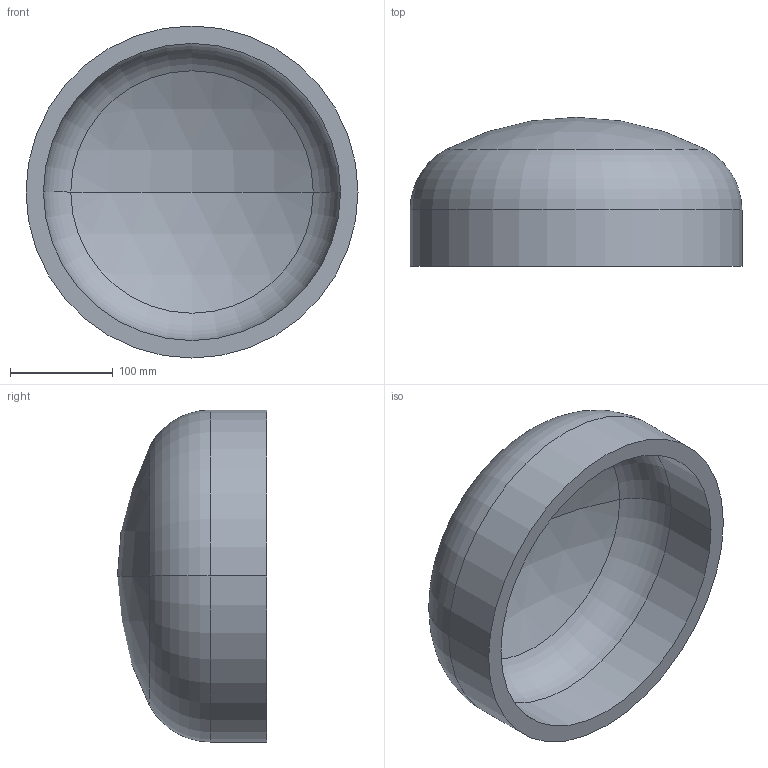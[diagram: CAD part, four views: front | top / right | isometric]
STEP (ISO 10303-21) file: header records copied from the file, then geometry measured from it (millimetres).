
FILE_DESCRIPTION (( 'STEP AP203' ), '1' );
FILE_NAME ('DIN 28013 Korbbogenform_-_Boden DIN 28013 - 323,9 x 55 - I - s=17.step', '2016-07-01T07:44:31', ( '' ), ( '' ), 'SwSTEP 2.0', 'SolidWorks 2013', '' );
FILE_SCHEMA (( 'CONFIG_CONTROL_DESIGN' ));
Length unit declared in the file: millimetre
Products named in the file (1): DIN 28013 Korbbogenform_-_Boden DIN 28013 - 323,9 x 55 - I - s=17
Bounding box: 323.9 x 145.44 x 323.9 mm (x, y, z)
Volume: 2718156.1 mm3; surface area: 336778.9 mm2
Topology: 1 solids, 1 shells, 13 faces, 24 edges, 14 vertices
Faces by surface type: torus 4, cylinder 4, sphere 4, plane 1
Entity records: 407 total; most frequent: DIRECTION 72, CARTESIAN_POINT 52, ORIENTED_EDGE 48, AXIS2_PLACEMENT_3D 34, EDGE_CURVE 24, CIRCLE 20, EDGE_LOOP 14, VERTEX_POINT 14
